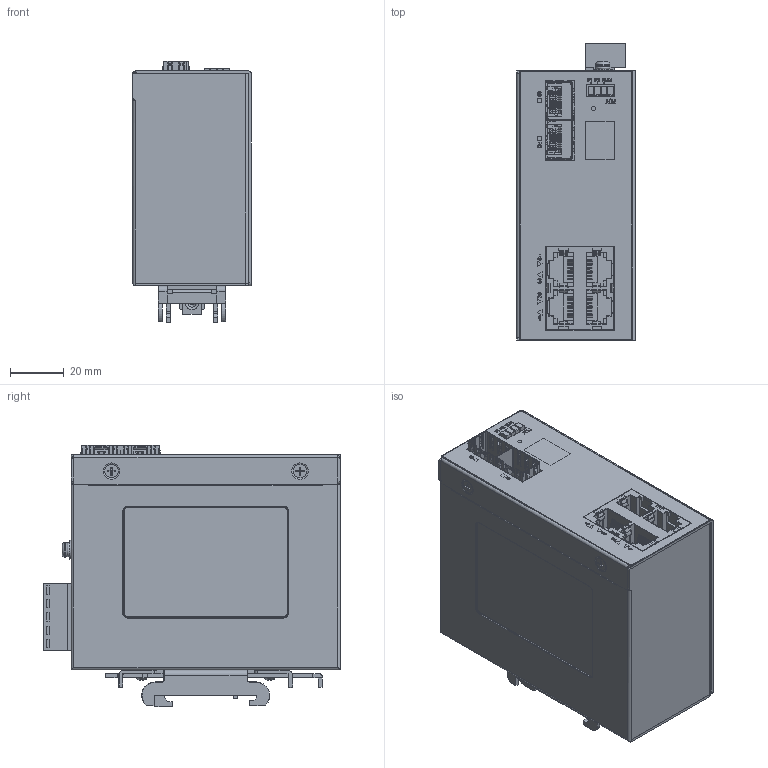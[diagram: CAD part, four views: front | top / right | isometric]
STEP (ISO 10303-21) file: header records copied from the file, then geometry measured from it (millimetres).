
FILE_DESCRIPTION(/* description */ (''),/* implementation_level */ '2;1');
FILE_NAME(/* name */ '2SFP-4RJ-U_STEP.stp',/* time_stamp */ '2026-06-08T18:03:31+08:00',/* author */ ('laozh'),/* organization */ (''),/* preprocessor_version */ 'ST-DEVELOPER v20.1',/* originating_system */ 'Autodesk Inventor 2026',/* authorisation */ '');
FILE_SCHEMA (('AUTOMOTIVE_DESIGN { 1 0 10303 214 3 1 1 }'));
Products named in the file (1): 2SFP-4RJ-U
Bounding box: 44 x 110.2 x 97.28 mm (x, y, z)
Volume: 59111 mm3; surface area: 89152.4 mm2
Topology: 1 solids, 1 shells, 5932 faces, 17009 edges, 10895 vertices
Faces by surface type: plane 4048, cylinder 1347, bspline 363, torus 89, cone 74, sphere 11
Full cylindrical faces by diameter (mm): 1 x5, 1.5 x1, 2 x42, 2.4 x11, 2.5 x14, 3 x16, 3.01 x2, 3.4 x2, 3.5 x5, 4 x1, 4.5 x2, 5 x4, 5.3 x1, 6.5 x2, 7 x1
Entity records: 213415 total; most frequent: CARTESIAN_POINT 51668, ORIENTED_EDGE 34010, DIRECTION 30393, EDGE_CURVE 17005, LINE 13127, VECTOR 13127, VERTEX_POINT 10895, AXIS2_PLACEMENT_3D 8633
